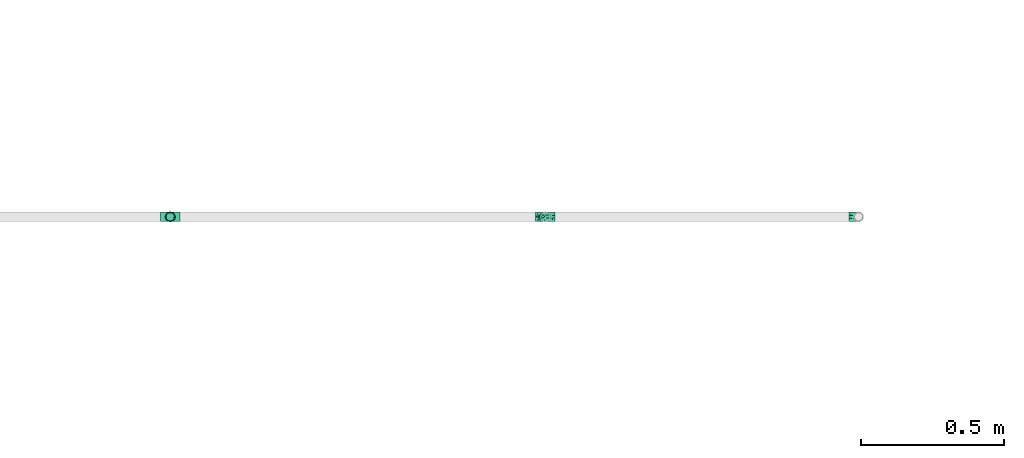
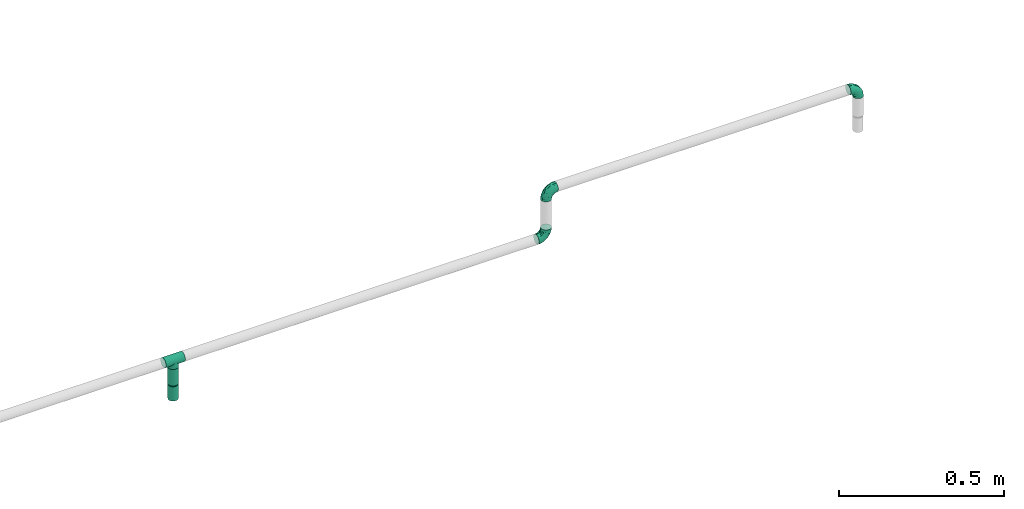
# One storey, part 23 of 45: 4 flow fittings, 1 flow segment, 1 flow terminal.
"""IFC2X3 building model written with IfcOpenShell, lengths in millimetres."""

from ifc_helpers import new_model, entity, si_unit, converted_unit, derived_unit, direction, frame, origin_with_axes, origin_2d_with_axis, place, context, subcontext, project, spatial, hollow_circle, extrude, open_shell, surface_model, source, transform, mapped, type_object, element, save


model = new_model("IFC2X3")

# Units and contexts
model_context = context("Model", 3, precision=0.01, world=frame((0.0, 4.29681676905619e-09, 0.0)), true_north=direction((4.01073788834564e-13, 1.0)))
plan_context = context("Plan", 3, precision=0.01, world=frame((0.0, 4.29681676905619e-09, 0.0)), true_north=direction((4.01073788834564e-13, 1.0)))
body_context = subcontext(model_context, "Body", "Model", "MODEL_VIEW")
ifc_project = project(units=[converted_unit("PLANEANGLEUNIT", "DEGREE", entity("IfcPositiveLengthMeasure", 0.0174532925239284), si_unit("PLANEANGLEUNIT", "RADIAN"), dimensions=[0, 0, 0, 0, 0, 0, 0]), si_unit("AREAUNIT", "SQUARE_METRE"), si_unit("LENGTHUNIT", "METRE", prefix="MILLI"), si_unit("MASSUNIT", "GRAM", prefix="KILO"), si_unit("POWERUNIT", "WATT"), si_unit("PRESSUREUNIT", "PASCAL", prefix="KILO"), si_unit("FORCEUNIT", "NEWTON", prefix="KILO"), si_unit("ELECTRICVOLTAGEUNIT", "VOLT"), si_unit("ELECTRICCURRENTUNIT", "AMPERE"), si_unit("THERMODYNAMICTEMPERATUREUNIT", "DEGREE_CELSIUS"), si_unit("TIMEUNIT", "SECOND"), si_unit("VOLUMEUNIT", "CUBIC_METRE"), derived_unit("LINEARVELOCITYUNIT", [(si_unit("LENGTHUNIT", "METRE"), 1), (si_unit("TIMEUNIT", "SECOND"), -1)]), derived_unit("VOLUMETRICFLOWRATEUNIT", [(si_unit("VOLUMEUNIT", "CUBIC_METRE"), 1), (si_unit("TIMEUNIT", "SECOND"), -1)]), derived_unit("THERMALTRANSMITTANCEUNIT", [(si_unit("POWERUNIT", "WATT"), 1), (si_unit("THERMODYNAMICTEMPERATUREUNIT", "KELVIN"), -1), (si_unit("AREAUNIT", "SQUARE_METRE"), -1)]), derived_unit("SOUNDPRESSUREUNIT", [(si_unit("PRESSUREUNIT", "PASCAL"), 1)])], contexts=[model_context, plan_context])

# Site, building, storey
site_placement = place(None, frame((0.0, -4.29681676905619e-09, 0.0), z_axis=(0.0, 0.0, 1.0), x_axis=(1.0, 0.0, 0.0)))
site = spatial("IfcSite", under=ifc_project, at=site_placement, CompositionType="ELEMENT")
building_placement = place(site_placement, frame((0.0, 4.29681676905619e-09, 0.0), z_axis=(0.0, 0.0, 1.0), x_axis=(1.0, 0.0, 0.0)))
building = spatial("IfcBuilding", under=site, at=building_placement, Name="mc-building", CompositionType="ELEMENT")
storey_placement = place(building_placement, frame((0.0, 0.0, 210200.0), z_axis=(0.0, 0.0, 1.0), x_axis=(1.0, 0.0, 0.0)))
storey = spatial("IfcBuildingStorey", under=building, at=storey_placement, Name="Nivå F - 0,7 m", CompositionType="ELEMENT", Elevation=210200.0)

# Flow fittings
pipe_fitting_type_1 = type_object("IfcPipeFittingType", Name="magi_pipe_fe_elbow_short_001", PredefinedType="BEND")
shared_shape_1 = source(origin_with_axes(), body_context, "Body", "SurfaceModel", [
    surface_model("IfcShellBasedSurfaceModel", [(-33.8, -11.9501, -11.9501), (-33.8, -14.63583, -8.45), (-33.8, -8.45, -14.63583), (-33.8, 0.0, -16.9), (-33.8, -4.37404, -16.32415), (-33.8, -16.32415, -4.37404), (-33.8, -16.9, 0.0), (-33.8, 11.9501, 11.9501), (-33.8, 14.63583, 8.45), (-33.8, 8.45, 14.63583), (-33.8, -11.9501, 11.9501), (-33.8, -8.45, 14.63583), (-33.8, -14.63583, 8.45), (-33.8, -16.32415, 4.37404), (-33.8, -4.37404, 16.32415), (-33.8, 0.0, 16.9), (-33.8, 16.9, 0.0), (-33.8, 16.32415, -4.37404), (-33.8, 16.32415, 4.37404), (-33.8, 4.37404, -16.32415), (-33.8, 8.45, -14.63583), (-33.8, 14.63583, -8.45), (-33.8, 11.9501, -11.9501), (-33.8, 4.37404, 16.32415), (-4.37404, 33.8, -16.32415), (16.9, 33.8, 0.0), (0.0, 33.8, -16.9), (-16.32415, 33.8, -4.37404), (-8.45, 33.8, -14.63583), (-14.63583, 33.8, -8.45), (-11.9501, 33.8, -11.9501), (16.32415, 33.8, 4.37404), (8.45, 33.8, -14.63583), (14.63583, 33.8, -8.45), (11.9501, 33.8, -11.9501), (4.37404, 33.8, -16.32415), (16.32415, 33.8, -4.37404), (-16.32415, 33.8, 4.37404), (-4.37404, 33.8, 16.32415), (-14.63583, 33.8, 8.45), (-8.45, 33.8, 14.63583), (-11.9501, 33.8, 11.9501), (14.63583, 33.8, 8.45), (8.45, 33.8, 14.63583), (11.9501, 33.8, 11.9501), (0.0, 33.8, 16.9), (4.37404, 33.8, 16.32415), (-16.9, 33.8, 0.0), (-24.79389, -13.12945, 9.48721), (-22.19287, -9.75018, 12.59315), (-24.09897, -14.97035, 0.0), (-14.93934, -10.76256, 8.5297), (-22.46095, -14.75051, 5.27077), (14.75051, 22.46094, 5.27077), (11.9251, 13.23888, 4.33236), (13.04069, 14.39795, 0.0), (7.71387, 13.68847, 11.55891), (9.75018, 22.19287, 12.59315), (4.10169, 13.0571, 14.04018), (-24.84007, -6.39063, 15.2048), (-25.81779, -2.23879, 16.61097), (-23.66549, 2.59054, 16.87119), (-26.50418, 14.06512, 11.08152), (-24.21253, 17.66365, 7.72657), (-29.58514, 15.86957, 7.00283), (-6.17382, -7.5455, 0.0), (-13.23888, -11.9251, 4.33236), (-14.39795, -13.04069, 0.0), (-17.81434, 18.87373, 11.97104), (-6.30846, 29.15138, 15.82987), (-2.31622, 25.28002, 16.85849), (-29.23923, 10.23435, 13.77053), (-1.45439, -2.85688, 7.61475), (-0.28326, 0.34872, 10.09509), (-5.74484, -4.04709, 10.4122), (-4.41137, 11.31918, 16.59407), (-8.39727, 3.10034, 15.7812), (-1.72649, 9.1306, 15.53089), (-17.39909, 24.75344, 7.64977), (-26.19233, 20.0512, 0.0), (-28.14518, 17.29657, 4.25857), (-26.05147, 6.6281, 15.96447), (-5.87354, 16.61944, 16.86968), (-12.51807, 12.51807, 16.48937), (-10.06312, 7.38516, 16.81295), (-3.01882, 3.01882, 13.81718), (-13.0571, -4.10169, 14.04018), (-16.82553, -0.15166, 16.38038), (10.76256, 14.93934, 8.5297), (13.12945, 24.79389, 9.48721), (6.39063, 24.84007, 15.2048), (2.23879, 25.81779, 16.61097), (-13.68847, -7.71387, 11.55891), (14.97035, 24.09897, 0.0), (-7.30894, 22.89991, 16.09489), (-10.67958, 26.17414, 14.008), (-12.78295, 18.26924, 15.06066), (-13.88562, 22.45231, 12.93244), (-18.04944, 15.16501, 14.04434), (-23.11658, 20.08178, 4.02986), (-21.84989, 21.84989, 0.0), (-18.55817, 25.48277, 3.93065), (-13.95142, 26.94732, 11.03289), (-18.57098, 7.23906, 16.59756), (-16.58335, 4.14122, 16.89279), (-17.96666, 11.46709, 15.63151), (-9.84453, 17.54304, 16.18938), (0.15166, 16.82553, 16.38038), (-23.27207, 11.47201, 14.23154), (3.84842, 5.86994, 10.70473), (-8.0212, -7.54413, 7.93275), (1.00345, -2.19508, 4.57414), (5.13203, 3.01004, 5.90201), (5.24161, 1.7543, 2.53265), (8.70457, 7.04947, 3.99182), (-20.0512, 26.19233, 0.0), (8.4852, 8.76699, 7.09296), (-4.55488, -6.72064, 4.90681), (2.05031, -2.05031, 0.0), (7.5455, 6.17382, 0.0), (-26.75399, 2.1369, -16.845), (-14.61995, 24.73803, -11.27736), (-28.45274, -13.45335, -9.81895), (-26.00469, 6.63555, -15.96645), (-23.06726, 20.04573, -4.26202), (-13.80647, -4.26506, -14.17873), (-14.67501, -0.21081, -16.07388), (-6.7902, -0.2828, -13.8478), (-24.53586, 11.08096, -14.13417), (-26.72048, 14.00837, -11.05776), (10.0967, 24.44989, -12.75976), (5.83237, 21.40218, -15.03047), (6.66249, 28.54238, -15.38093), (-20.38182, 15.48705, -12.74596), (12.53268, 21.23441, -9.15363), (12.54494, 15.67504, -5.54878), (9.7522, 12.89279, -8.66343), (-15.65186, 19.64213, -13.01327), (-12.03528, 20.66498, -14.67665), (-15.61907, 15.61906, -14.83879), (-25.56551, -15.26206, 0.0), (-24.65452, -15.12934, -5.50955), (13.45335, 28.45274, -9.81895), (15.12934, 24.65452, -5.50955), (-7.35442, -8.31014, -5.65563), (-15.67504, -12.54494, -5.54878), (-24.44989, -10.0967, -12.75976), (0.16522, 0.41303, -9.71728), (-5.70658, -5.33066, -8.89288), (-5.13869, -2.37198, -11.53565), (-21.23441, -12.53268, -9.15363), (0.71146, 7.93863, -14.09382), (0.21081, 14.67501, -16.07388), (3.49291, 14.42772, -14.76381), (-24.89911, -2.13088, -16.591), (-28.54238, -6.66249, -15.38093), (-18.44386, -7.71663, -13.26957), (2.13088, 24.89911, -16.591), (-28.64342, 17.44413, -2.89318), (1.70017, -1.28722, -5.09504), (-16.57067, 26.81947, -7.36596), (-17.69055, 27.4263, -3.76405), (-12.89279, -9.7522, -8.66343), (-5.96611, 5.96611, -15.95814), (-20.53709, 20.09345, -8.28985), (-2.1369, 26.75399, -16.845), (-6.89872, 24.58781, -16.02578), (-10.60739, 26.53157, -13.98044), (-21.40218, -5.83237, -15.03047), (2.93192, 5.89627, -11.55917), (6.89393, 12.61842, -11.82233), (5.58056, 5.95325, -8.79455), (-3.99512, 18.61798, -16.89635), (8.31014, 7.35442, -5.65563), (-9.1383, 9.86148, -16.89041), (-9.99983, 16.02119, -16.39699), (-16.68576, 9.78031, -16.34199), (-27.01915, 16.61158, -7.12979), (15.26206, 25.56551, 0.0), (-18.61798, 3.99512, -16.89635), (-19.37495, 27.82495, 0.0), (-12.61842, -6.89393, -11.82233), (-18.84705, 19.14018, -10.96545)], [open_shell([[[0, 1, 2]], [[3, 4, 2]], [[5, 6, 1]], [[7, 8, 9]], [[10, 11, 12]], [[13, 12, 11]], [[14, 15, 11]], [[16, 17, 18]], [[3, 6, 19]], [[20, 19, 17]], [[20, 17, 21]], [[22, 20, 21]], [[17, 19, 6]], [[2, 1, 6]], [[2, 6, 3]], [[6, 18, 17]], [[23, 18, 6]], [[8, 18, 23]], [[8, 23, 9]], [[13, 23, 6]], [[23, 13, 11]], [[11, 15, 23]], [[24, 25, 26]], [[27, 24, 28]], [[29, 27, 28]], [[29, 28, 30]], [[31, 25, 24]], [[32, 33, 34]], [[32, 35, 26]], [[33, 25, 36]], [[33, 32, 26]], [[25, 33, 26]], [[24, 27, 37]], [[31, 24, 37]], [[38, 37, 39]], [[40, 38, 39]], [[40, 39, 41]], [[31, 37, 38]], [[42, 43, 44]], [[43, 42, 31]], [[43, 45, 46]], [[43, 31, 38]], [[38, 45, 43]], [[37, 27, 47]], [[10, 48, 49]], [[13, 6, 50]], [[51, 48, 52]], [[53, 54, 55]], [[48, 10, 12]], [[13, 52, 12]], [[56, 57, 58]], [[49, 11, 10]], [[49, 59, 11]], [[15, 60, 61]], [[62, 63, 64]], [[65, 66, 67]], [[57, 44, 43]], [[62, 68, 63]], [[38, 69, 70]], [[9, 71, 7]], [[14, 60, 15]], [[72, 73, 74]], [[75, 76, 77]], [[7, 62, 8]], [[39, 37, 78]], [[79, 16, 80]], [[64, 18, 8]], [[15, 61, 23]], [[23, 81, 9]], [[82, 83, 84]], [[74, 85, 86]], [[59, 86, 87]], [[88, 89, 57]], [[90, 43, 46]], [[42, 53, 31]], [[46, 45, 91]], [[54, 53, 88]], [[42, 89, 53]], [[92, 86, 49]], [[89, 42, 44]], [[11, 59, 14]], [[53, 55, 93]], [[93, 31, 53]], [[66, 52, 67]], [[94, 82, 70]], [[95, 96, 94]], [[97, 98, 96]], [[79, 99, 100]], [[40, 41, 95]], [[101, 100, 99]], [[68, 78, 63]], [[38, 40, 69]], [[16, 18, 80]], [[95, 94, 69]], [[78, 101, 99]], [[41, 102, 95]], [[70, 45, 38]], [[97, 95, 102]], [[13, 50, 52]], [[90, 57, 43]], [[57, 90, 58]], [[81, 23, 61]], [[103, 104, 84]], [[105, 81, 103]], [[41, 39, 102]], [[106, 96, 83]], [[94, 106, 82]], [[91, 70, 107]], [[71, 62, 7]], [[62, 108, 98]], [[86, 59, 49]], [[67, 52, 50]], [[60, 59, 87]], [[92, 49, 51]], [[86, 85, 76]], [[91, 90, 46]], [[25, 31, 93]], [[107, 77, 58]], [[107, 58, 90]], [[58, 85, 109]], [[110, 74, 92]], [[72, 74, 110]], [[66, 51, 52]], [[72, 111, 112]], [[113, 114, 112]], [[56, 88, 57]], [[52, 48, 12]], [[49, 48, 51]], [[57, 89, 44]], [[53, 89, 88]], [[103, 81, 61]], [[71, 81, 108]], [[18, 64, 80]], [[63, 78, 99]], [[47, 115, 101]], [[101, 115, 100]], [[39, 78, 102]], [[68, 102, 78]], [[97, 96, 95]], [[105, 98, 108]], [[103, 84, 83]], [[107, 70, 82]], [[76, 84, 87]], [[82, 84, 75]], [[70, 91, 45]], [[90, 91, 107]], [[59, 60, 14]], [[61, 60, 87]], [[73, 85, 74]], [[109, 112, 116]], [[103, 61, 104]], [[105, 103, 83]], [[96, 105, 83]], [[81, 105, 108]], [[96, 98, 105]], [[62, 98, 68]], [[61, 87, 104]], [[87, 84, 104]], [[86, 76, 87]], [[77, 76, 85]], [[58, 77, 85]], [[75, 77, 107]], [[82, 75, 107]], [[76, 75, 84]], [[81, 71, 9]], [[62, 71, 108]], [[95, 69, 40]], [[70, 69, 94]], [[62, 64, 8]], [[80, 63, 99]], [[63, 80, 64]], [[80, 99, 79]], [[66, 65, 117]], [[110, 66, 117]], [[112, 114, 116]], [[118, 117, 65]], [[110, 92, 51]], [[112, 111, 113]], [[119, 55, 54]], [[74, 86, 92]], [[58, 109, 56]], [[116, 56, 109]], [[66, 110, 51]], [[72, 110, 117]], [[111, 72, 117]], [[73, 112, 109]], [[117, 118, 111]], [[113, 111, 118]], [[118, 119, 113]], [[114, 119, 54]], [[119, 114, 113]], [[116, 54, 88]], [[54, 116, 114]], [[116, 88, 56]], [[112, 73, 72]], [[85, 73, 109]], [[78, 37, 101]], [[47, 101, 37]], [[102, 68, 97]], [[97, 68, 98]], [[82, 106, 83]], [[94, 96, 106]], [[19, 120, 3]], [[29, 30, 121]], [[0, 122, 1]], [[20, 123, 19]], [[100, 124, 79]], [[125, 126, 127]], [[128, 22, 129]], [[130, 131, 132]], [[128, 129, 133]], [[134, 135, 136]], [[137, 138, 139]], [[128, 20, 22]], [[67, 140, 141]], [[134, 142, 143]], [[141, 5, 1]], [[144, 65, 145]], [[146, 0, 2]], [[147, 148, 149]], [[145, 141, 150]], [[151, 152, 153]], [[154, 4, 3]], [[2, 155, 146]], [[150, 146, 156]], [[155, 2, 4]], [[143, 135, 134]], [[35, 157, 26]], [[16, 79, 158]], [[148, 159, 144]], [[160, 161, 27]], [[145, 162, 144]], [[163, 152, 151]], [[27, 29, 160]], [[121, 164, 160]], [[32, 34, 130]], [[26, 165, 24]], [[24, 165, 166]], [[142, 34, 33]], [[30, 28, 167]], [[124, 161, 164]], [[157, 35, 132]], [[155, 154, 168]], [[123, 20, 128]], [[169, 170, 171]], [[172, 157, 152]], [[24, 166, 28]], [[132, 35, 32]], [[142, 130, 34]], [[168, 154, 126]], [[136, 135, 173]], [[133, 137, 139]], [[22, 21, 129]], [[170, 131, 130]], [[33, 36, 143]], [[172, 174, 175]], [[176, 123, 128]], [[158, 177, 17]], [[135, 55, 119]], [[167, 28, 166]], [[175, 166, 172]], [[137, 167, 138]], [[122, 141, 1]], [[140, 6, 5]], [[36, 25, 178]], [[170, 130, 134]], [[152, 157, 131]], [[165, 157, 172]], [[153, 170, 151]], [[152, 163, 174]], [[168, 125, 156]], [[122, 146, 150]], [[120, 154, 3]], [[179, 174, 126]], [[179, 126, 154]], [[126, 163, 127]], [[162, 145, 150]], [[140, 5, 141]], [[36, 178, 143]], [[55, 143, 178]], [[177, 129, 21]], [[128, 133, 139]], [[176, 128, 139]], [[120, 123, 179]], [[121, 160, 29]], [[161, 100, 180]], [[166, 175, 138]], [[121, 30, 167]], [[161, 47, 27]], [[79, 124, 158]], [[124, 164, 177]], [[161, 124, 100]], [[136, 171, 170]], [[127, 163, 151]], [[147, 171, 159]], [[148, 144, 162]], [[127, 151, 169]], [[127, 181, 125]], [[129, 177, 164]], [[21, 17, 177]], [[159, 65, 144]], [[67, 141, 145]], [[143, 55, 135]], [[135, 119, 173]], [[123, 120, 19]], [[154, 120, 179]], [[157, 165, 26]], [[166, 165, 172]], [[172, 152, 174]], [[176, 139, 175]], [[126, 174, 163]], [[176, 174, 179]], [[174, 176, 175]], [[123, 176, 179]], [[150, 181, 162]], [[127, 149, 181]], [[181, 148, 162]], [[159, 148, 147]], [[171, 136, 173]], [[170, 134, 136]], [[159, 171, 173]], [[171, 147, 169]], [[169, 147, 149]], [[151, 170, 169]], [[164, 182, 129]], [[182, 121, 137]], [[181, 149, 148]], [[169, 149, 127]], [[182, 137, 133]], [[167, 137, 121]], [[166, 138, 167]], [[175, 139, 138]], [[129, 182, 133]], [[121, 182, 164]], [[161, 160, 164]], [[47, 161, 180]], [[177, 158, 124]], [[16, 158, 17]], [[130, 132, 32]], [[157, 132, 131]], [[143, 142, 33]], [[130, 142, 134]], [[154, 155, 4]], [[146, 155, 168]], [[146, 122, 0]], [[141, 122, 150]], [[152, 131, 153]], [[159, 119, 118]], [[67, 145, 65]], [[170, 153, 131]], [[119, 159, 173]], [[159, 118, 65]], [[156, 125, 181]], [[126, 125, 168]], [[150, 156, 181]], [[168, 156, 146]]])]),
])
for number, where, z_axis, x_axis, name in (
    (1, (333219.17326, 463728.25463, 3316.68979999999), (0.0, 1.0, 0.0), (1.0, 0.0, 0.0), "magi_pipe_fe_elbow_short_001"),
    (2, (332126.35522, 463728.25463, 3145.0), (0.0, -1.0, 0.0), (1.0, 0.0, 0.0), "magi_pipe_fe_elbow_short_001"),
    (3, (332126.35522, 463728.25463, 3316.68979999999), (0.0, -1.0, 0.0), (-1.0, 0.0, 0.0), "magi_pipe_fe_elbow_short_001"),
):
    element("IfcFlowFitting", number, at=place(storey_placement, frame(where, z_axis=z_axis, x_axis=x_axis)), inside=storey, type_object=pipe_fitting_type_1, Name=name, context=body_context, shape_type="MappedRepresentation", body=[
        mapped(shared_shape_1, transform((0.0, 0.0, 0.0), scale=1.0)),
    ])
pipe_fitting_type_2 = type_object("IfcPipeFittingType", Name="magi_pipe_fe_tee_centric_90_001", PredefinedType="JUNCTION")
shared_shape_2 = source(origin_with_axes(), body_context, "Body", "SurfaceModel", [
    surface_model("IfcShellBasedSurfaceModel", [(-33.8, 4.37404, -16.32415), (-33.8, 0.0, -16.9), (-33.8, 16.32415, -4.37404), (-33.8, 8.45, -14.63583), (-33.8, 11.9501, -11.9501), (-33.8, 14.63583, -8.45), (-33.8, -16.9, 0.0), (-33.8, -11.9501, -11.9501), (-33.8, -14.63583, -8.45), (-33.8, -8.45, -14.63583), (-33.8, -4.37404, -16.32415), (-33.8, -16.32415, -4.37404), (-33.8, 14.63583, 8.45), (-33.8, 16.32415, 4.37404), (-33.8, -8.45, 14.63583), (-33.8, 8.45, 14.63583), (-33.8, 11.9501, 11.9501), (-33.8, 4.37404, 16.32415), (-33.8, 0.0, 16.9), (-33.8, -11.9501, 11.9501), (-33.8, -14.63583, 8.45), (-33.8, -16.32415, 4.37404), (-33.8, -4.37404, 16.32415), (-33.8, 16.9, 0.0), (33.8, 4.37404, -16.32415), (33.8, -16.9, 0.0), (33.8, 0.0, -16.9), (33.8, 14.63583, -8.45), (33.8, 8.45, -14.63583), (33.8, 16.32415, -4.37404), (33.8, 11.9501, -11.9501), (33.8, -16.32415, 4.37404), (33.8, -8.45, -14.63583), (33.8, -4.37404, -16.32415), (33.8, -11.9501, -11.9501), (33.8, -14.63583, -8.45), (33.8, -16.32415, -4.37404), (33.8, 16.32415, 4.37404), (33.8, 8.45, 14.63583), (33.8, 14.63583, 8.45), (33.8, 11.9501, 11.9501), (33.8, -8.45, 14.63583), (33.8, 4.37404, 16.32415), (33.8, -14.63583, 8.45), (33.8, -11.9501, 11.9501), (33.8, 0.0, 16.9), (33.8, -4.37404, 16.32415), (33.8, 16.9, 0.0), (16.28698, -16.28698, 4.51047), (16.9, -16.9, 0.0), (14.62704, -14.62704, 8.4652), (9.47213, -9.47213, 13.99602), (12.26343, -12.26343, 11.62834), (-16.9, -16.9, 0.0), (-16.28698, -16.28698, 4.51047), (-14.62704, -14.62704, 8.4652), (-12.26343, -12.26343, 11.62834), (-9.47213, -9.47213, 13.99602), (-6.42894, -6.42894, 15.62942), (6.42894, -6.42894, 15.62942), (3.24522, -3.24522, 16.58549), (0.0, 0.0, 16.9), (-3.24522, -3.24522, 16.58549), (3.24522, -3.24522, -16.58549), (0.0, 0.0, -16.9), (-3.24522, -3.24522, -16.58549), (-6.42894, -6.42894, -15.62942), (6.42894, -6.42894, -15.62942), (9.47213, -9.47213, -13.99602), (12.26343, -12.26343, -11.62834), (14.62704, -14.62704, -8.4652), (16.28698, -16.28698, -4.51047), (-9.47213, -9.47213, -13.99602), (-12.26343, -12.26343, -11.62834), (-16.28698, -16.28698, -4.51047), (-14.62704, -14.62704, -8.4652), (4.37404, -25.35, -16.32415), (-16.9, -25.35, 0.0), (0.0, -25.35, -16.9), (14.63583, -25.35, -8.45), (8.45, -25.35, -14.63583), (16.32415, -25.35, -4.37404), (11.9501, -25.35, -11.9501), (-11.9501, -25.35, -11.9501), (-8.45, -25.35, -14.63583), (-4.37404, -25.35, -16.32415), (-14.63583, -25.35, -8.45), (-16.32415, -25.35, -4.37404), (16.9, -25.35, 0.0), (8.45, -25.35, 14.63583), (16.32415, -25.35, 4.37404), (14.63583, -25.35, 8.45), (-8.45, -25.35, 14.63583), (11.9501, -25.35, 11.9501), (4.37404, -25.35, 16.32415), (-16.32415, -25.35, 4.37404), (-11.9501, -25.35, 11.9501), (-14.63583, -25.35, 8.45), (0.0, -25.35, 16.9), (-4.37404, -25.35, 16.32415)], [open_shell([[[0, 1, 2]], [[3, 0, 4]], [[0, 2, 5]], [[4, 0, 5]], [[6, 2, 1]], [[7, 8, 9]], [[1, 10, 9]], [[11, 6, 8]], [[1, 9, 8]], [[1, 8, 6]], [[6, 12, 2]], [[12, 13, 2]], [[14, 12, 6]], [[12, 14, 15]], [[16, 12, 15]], [[17, 15, 18]], [[19, 14, 20]], [[21, 20, 14]], [[22, 18, 14]], [[14, 6, 21]], [[14, 18, 15]], [[23, 2, 13]], [[24, 25, 26]], [[27, 24, 28]], [[27, 29, 24]], [[27, 28, 30]], [[31, 25, 24]], [[26, 32, 33]], [[26, 34, 32]], [[35, 25, 36]], [[35, 34, 26]], [[25, 35, 26]], [[24, 29, 31]], [[29, 37, 38]], [[38, 37, 39]], [[38, 31, 29]], [[38, 39, 40]], [[41, 38, 42]], [[43, 41, 44]], [[41, 43, 31]], [[41, 45, 46]], [[41, 31, 38]], [[42, 45, 41]], [[29, 47, 37]], [[31, 43, 48]], [[25, 31, 49]], [[49, 31, 48]], [[43, 50, 48]], [[44, 41, 51]], [[50, 43, 52]], [[51, 52, 44]], [[52, 43, 44]], [[53, 54, 21]], [[53, 21, 6]], [[21, 54, 20]], [[54, 55, 20]], [[56, 57, 19]], [[19, 20, 56]], [[19, 57, 14]], [[56, 20, 55]], [[14, 57, 58]], [[51, 41, 59]], [[60, 45, 61]], [[59, 46, 60]], [[46, 59, 41]], [[60, 46, 45]], [[61, 45, 42]], [[39, 37, 13]], [[16, 38, 40]], [[12, 40, 39]], [[42, 38, 15]], [[23, 37, 47]], [[62, 61, 18]], [[62, 22, 58]], [[22, 62, 18]], [[58, 22, 14]], [[61, 17, 18]], [[42, 17, 61]], [[15, 17, 42]], [[15, 38, 16]], [[12, 16, 40]], [[13, 12, 39]], [[37, 23, 13]], [[5, 27, 30]], [[23, 47, 29]], [[30, 28, 3]], [[27, 2, 29]], [[26, 33, 63]], [[26, 64, 24]], [[64, 26, 63]], [[28, 24, 0]], [[64, 0, 24]], [[4, 30, 3]], [[2, 27, 5]], [[5, 30, 4]], [[2, 23, 29]], [[65, 66, 10]], [[1, 0, 64]], [[1, 65, 10]], [[66, 9, 10]], [[0, 3, 28]], [[1, 64, 65]], [[63, 33, 67]], [[32, 34, 68]], [[69, 68, 34]], [[35, 70, 69]], [[69, 34, 35]], [[32, 68, 67]], [[36, 25, 49]], [[36, 71, 35]], [[71, 36, 49]], [[35, 71, 70]], [[72, 9, 66]], [[72, 7, 9]], [[7, 72, 73]], [[7, 73, 8]], [[74, 53, 11]], [[75, 74, 8]], [[74, 11, 8]], [[11, 53, 6]], [[75, 8, 73]], [[32, 67, 33]], [[76, 77, 78]], [[79, 76, 80]], [[79, 81, 76]], [[79, 80, 82]], [[77, 76, 81]], [[78, 83, 84]], [[84, 85, 78]], [[86, 77, 87]], [[83, 78, 86]], [[77, 86, 78]], [[81, 88, 77]], [[89, 88, 90]], [[89, 90, 91]], [[92, 77, 89]], [[89, 91, 93]], [[92, 89, 94]], [[95, 96, 97]], [[96, 95, 92]], [[92, 98, 99]], [[95, 77, 92]], [[94, 98, 92]], [[89, 77, 88]], [[77, 95, 53]], [[54, 53, 95]], [[97, 96, 56]], [[96, 92, 57]], [[95, 97, 54]], [[58, 92, 99]], [[55, 54, 97]], [[56, 55, 97]], [[58, 57, 92]], [[98, 61, 62]], [[58, 99, 62]], [[56, 96, 57]], [[62, 99, 98]], [[94, 60, 98]], [[89, 59, 94]], [[91, 90, 48]], [[52, 93, 91]], [[93, 51, 89]], [[49, 90, 88]], [[59, 60, 94]], [[51, 59, 89]], [[49, 48, 90]], [[50, 52, 91]], [[48, 50, 91]], [[51, 93, 52]], [[98, 60, 61]], [[88, 81, 49]], [[71, 49, 81]], [[79, 82, 69]], [[82, 80, 68]], [[81, 79, 71]], [[67, 80, 76]], [[70, 71, 79]], [[69, 70, 79]], [[67, 68, 80]], [[78, 64, 63]], [[67, 76, 63]], [[69, 82, 68]], [[63, 76, 78]], [[85, 65, 78]], [[84, 66, 85]], [[86, 87, 74]], [[86, 73, 83]], [[72, 84, 83]], [[53, 87, 77]], [[66, 65, 85]], [[72, 66, 84]], [[53, 74, 87]], [[75, 73, 86]], [[74, 75, 86]], [[72, 83, 73]], [[78, 65, 64]]])]),
])
flow_fitting_placement = place(storey_placement, frame((330819.17326, 463728.25463, 3145.0), z_axis=(0.0, 1.0, 0.0), x_axis=(-1.0, 0.0, 0.0)))
element("IfcFlowFitting", 4, at=flow_fitting_placement, inside=storey, type_object=pipe_fitting_type_2, Name="magi_pipe_fe_tee_centric_90_001", context=body_context, shape_type="MappedRepresentation", body=[
    mapped(shared_shape_2, transform((0.0, 0.0, 0.0), scale=1.0)),
])

# Flow segment
pipe_segment_type = type_object("IfcPipeSegmentType", Name="Stålrør normaltykke", PredefinedType="RIGIDSEGMENT")
shared_shape_3 = source(origin_with_axes(), body_context, "Body", "SweptSolid", [
    extrude(hollow_circle(Radius=16.9, WallThickness=2.0, at=origin_2d_with_axis()), frame((0.0, 0.0, 0.0), z_axis=(1.0, 0.0, 0.0), x_axis=(0.0, 1.0, 0.0)), (0.0, 0.0, 1.0), 60.7),
])
flow_segment_placement = place(storey_placement, frame((330819.17326, 463728.25463, 3119.64999999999), z_axis=(0.0, -1.0, 0.0), x_axis=(0.0, 0.0, -1.0)))
element("IfcFlowSegment", 5, at=flow_segment_placement, inside=storey, type_object=pipe_segment_type, Name="Stålrør normaltykke", context=body_context, shape_type="MappedRepresentation", body=[
    mapped(shared_shape_3, transform((0.0, 0.0, 0.0), scale=1.0)),
])

# Flow terminal
fire_suppression_terminal_type = type_object("IfcFireSuppressionTerminalType", Name="SP-15-K80-68DGR-STD-HIMLING", PredefinedType="NOTDEFINED")
shared_shape_4 = source(origin_with_axes(), body_context, "Body", "SurfaceModel", [
    surface_model("IfcShellBasedSurfaceModel", [(4.1411, -15.45481, 53.0), (8.0, -13.85641, 53.0), (11.31371, -11.31371, 53.0), (-8.0, -13.85641, 53.0), (15.45481, -4.1411, 53.0), (16.0, 0.0, 53.0), (13.85641, -8.0, 53.0), (0.0, -16.0, 53.0), (-4.1411, -15.45481, 53.0), (-13.85641, -8.0, 53.0), (-11.31371, -11.31371, 53.0), (-15.45481, -4.1411, 53.0), (15.45481, 4.1411, 53.0), (13.85641, 8.0, 53.0), (11.31371, 11.31371, 53.0), (-4.1411, 15.45481, 53.0), (8.0, 13.85641, 53.0), (4.1411, 15.45481, 53.0), (0.0, 16.0, 53.0), (-13.85641, 8.0, 53.0), (-15.45481, 4.1411, 53.0), (-16.0, 0.0, 53.0), (-11.31371, 11.31371, 53.0), (-8.0, 13.85641, 53.0), (0.0, 16.0, 0.0), (4.1411, 15.45481, 0.0), (8.0, 13.85641, 0.0), (-4.1411, 15.45481, 0.0), (11.31371, 11.31371, 0.0), (13.85641, 8.0, 0.0), (15.45481, 4.1411, 0.0), (-15.45481, -4.1411, 0.0), (-11.31371, 11.31371, 0.0), (-8.0, 13.85641, 0.0), (-13.85641, 8.0, 0.0), (-15.45481, 4.1411, 0.0), (-16.0, 0.0, 0.0), (4.1411, -15.45481, 0.0), (16.0, 0.0, 0.0), (15.45481, -4.1411, 0.0), (13.85641, -8.0, 0.0), (11.31371, -11.31371, 0.0), (8.0, -13.85641, 0.0), (-8.0, -13.85641, 0.0), (-13.85641, -8.0, 0.0), (-11.31371, -11.31371, 0.0), (0.0, -16.0, 0.0), (-4.1411, -15.45481, 0.0)], [open_shell([[[0, 1, 2]], [[3, 0, 2]], [[4, 5, 2]], [[4, 2, 6]], [[3, 2, 5]], [[7, 3, 8]], [[7, 0, 3]], [[3, 9, 10]], [[9, 3, 11]], [[5, 11, 3]], [[5, 12, 11]], [[12, 13, 14]], [[15, 12, 14]], [[16, 17, 18]], [[14, 16, 15]], [[18, 15, 16]], [[11, 19, 20]], [[21, 11, 20]], [[22, 15, 23]], [[15, 22, 19]], [[19, 11, 15]], [[11, 12, 15]], [[24, 25, 26]], [[27, 24, 26]], [[28, 29, 30]], [[27, 26, 28]], [[27, 28, 31]], [[27, 32, 33]], [[32, 27, 34]], [[34, 31, 35]], [[31, 34, 27]], [[35, 31, 36]], [[28, 30, 31]], [[37, 38, 39]], [[37, 39, 40]], [[41, 42, 37]], [[41, 37, 40]], [[38, 37, 43]], [[44, 43, 45]], [[43, 44, 31]], [[43, 46, 47]], [[43, 31, 38]], [[37, 46, 43]], [[38, 31, 30]], [[11, 31, 44]], [[45, 9, 44]], [[3, 43, 47]], [[45, 43, 10]], [[8, 47, 46]], [[31, 21, 36]], [[31, 11, 21]], [[44, 9, 11]], [[45, 10, 9]], [[3, 10, 43]], [[47, 8, 3]], [[46, 7, 8]], [[0, 37, 42]], [[41, 1, 42]], [[6, 40, 39]], [[41, 40, 2]], [[4, 39, 38]], [[37, 0, 7]], [[42, 1, 0]], [[41, 2, 1]], [[40, 6, 2]], [[4, 6, 39]], [[38, 5, 4]], [[37, 7, 46]], [[12, 38, 30]], [[13, 30, 29]], [[16, 26, 25]], [[17, 25, 24]], [[30, 13, 12]], [[12, 5, 38]], [[28, 14, 13]], [[28, 26, 14]], [[14, 26, 16]], [[25, 17, 16]], [[28, 13, 29]], [[24, 18, 17]], [[15, 27, 33]], [[32, 23, 33]], [[19, 34, 35]], [[32, 34, 22]], [[20, 35, 36]], [[27, 15, 18]], [[33, 23, 15]], [[32, 22, 23]], [[34, 19, 22]], [[20, 19, 35]], [[36, 21, 20]], [[27, 18, 24]]])]),
])
flow_terminal_placement = place(storey_placement, frame((330819.17326, 463728.25463, 3055.0), z_axis=(0.0, 0.0, -1.0), x_axis=(-1.0, 0.0, 0.0)))
element("IfcFlowTerminal", 6, at=flow_terminal_placement, inside=storey, type_object=fire_suppression_terminal_type, Name="SP-15-K80-68DGR-STD-HIMLING", context=body_context, shape_type="MappedRepresentation", body=[
    mapped(shared_shape_4, transform((0.0, 0.0, 0.0), scale=1.0)),
])

save(model, "model.ifc")
